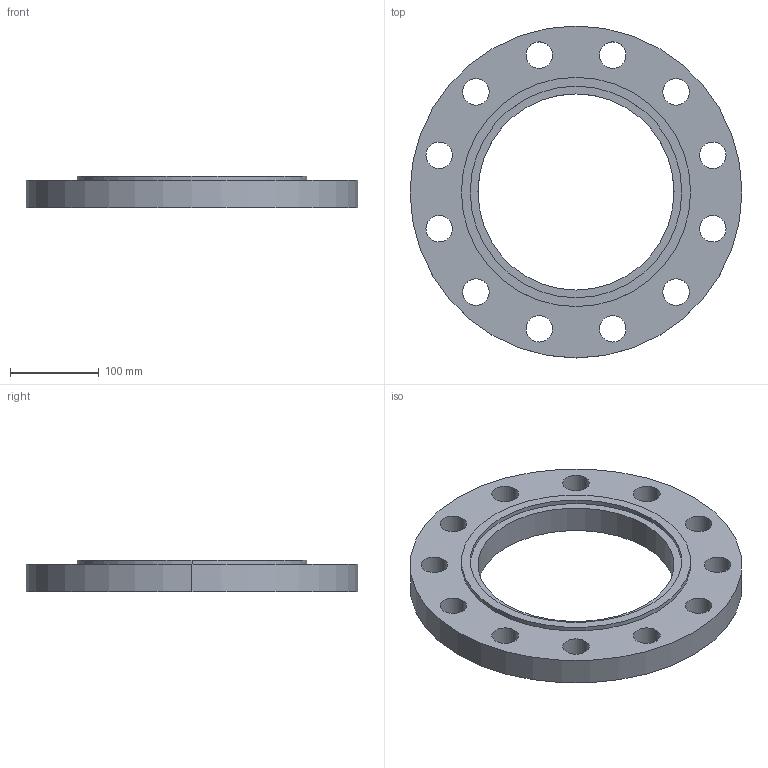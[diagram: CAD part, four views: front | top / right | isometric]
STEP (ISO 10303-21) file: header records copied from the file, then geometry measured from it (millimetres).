
FILE_DESCRIPTION (( 'STEP AP214' ), '1' );
FILE_NAME ('PN40 DN200 Type 01 - Type C Face.STEP', '2019-01-05T02:28:46', ( '' ), ( '' ), 'SwSTEP 2.0', 'SolidWorks 2019', '' );
FILE_SCHEMA (( 'AUTOMOTIVE_DESIGN' ));
Length unit declared in the file: millimetre
Products named in the file (1): PN40 DN200 Type 01 - Type C Face
Bounding box: 375 x 375 x 36 mm (x, y, z)
Volume: 2005471.2 mm3; surface area: 227837.3 mm2
Topology: 1 solids, 1 shells, 36 faces, 96 edges, 64 vertices
Faces by surface type: cylinder 32, plane 4
Entity records: 1250 total; most frequent: DIRECTION 234, CARTESIAN_POINT 197, ORIENTED_EDGE 192, AXIS2_PLACEMENT_3D 101, EDGE_CURVE 96, VERTEX_POINT 64, CIRCLE 64, EDGE_LOOP 64
